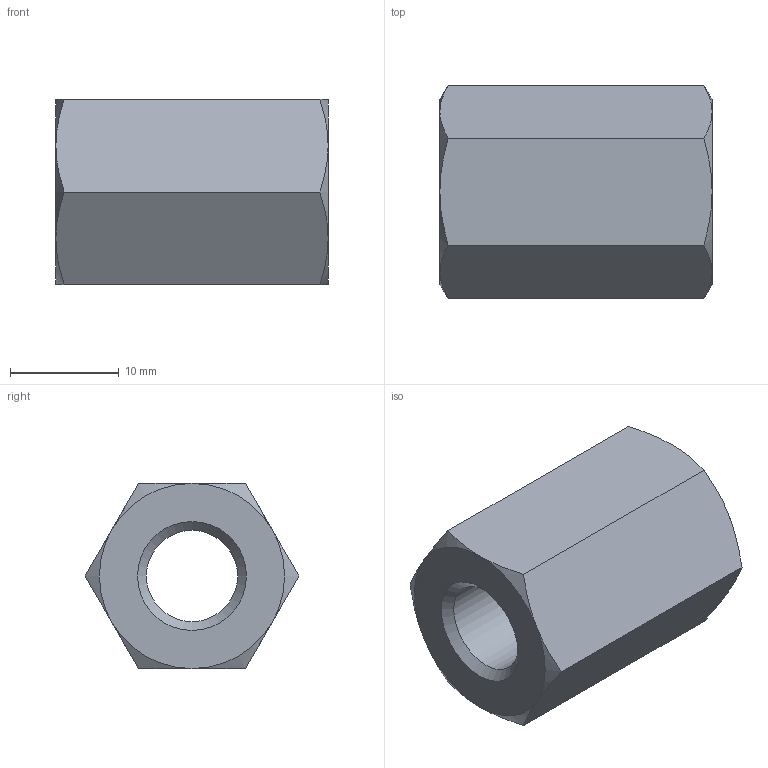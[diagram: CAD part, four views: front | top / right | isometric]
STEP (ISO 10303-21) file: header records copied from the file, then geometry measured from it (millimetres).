
FILE_DESCRIPTION( ( 'STEP AP203' ), '1' );
FILE_NAME( 'C:/Temp/Ganter_Step_05_03_2020/data/3_2/gn6220/gn6220_ni/Stainless Steel-Spacer GN 6220-NI-M10-25-A.stp', '2020-03-13T05:43:07', ( 'License CC BY-ND 4.0' ), ( 'CADENAS' ), ' ', 'PARTsolutions', ' ' );
FILE_SCHEMA( ( 'CONFIG_CONTROL_DESIGN' ) );
Length unit declared in the file: millimetre
Products named in the file (1): _Stainless Steel-Spacer GN 6220-NI-M10-25-A
Bounding box: 25 x 19.63 x 17 mm (x, y, z)
Volume: 4850.4 mm3; surface area: 2473.7 mm2
Topology: 1 solids, 1 shells, 23 faces, 49 edges, 28 vertices
Faces by surface type: cone 14, plane 8, cylinder 1
Full cylindrical faces by diameter (mm): 8.376 x1
Entity records: 728 total; most frequent: CARTESIAN_POINT 234, ORIENTED_EDGE 92, DIRECTION 86, EDGE_CURVE 46, AXIS2_PLACEMENT_3D 40, EDGE_LOOP 28, VERTEX_POINT 28, FACE_OUTER_BOUND 24
